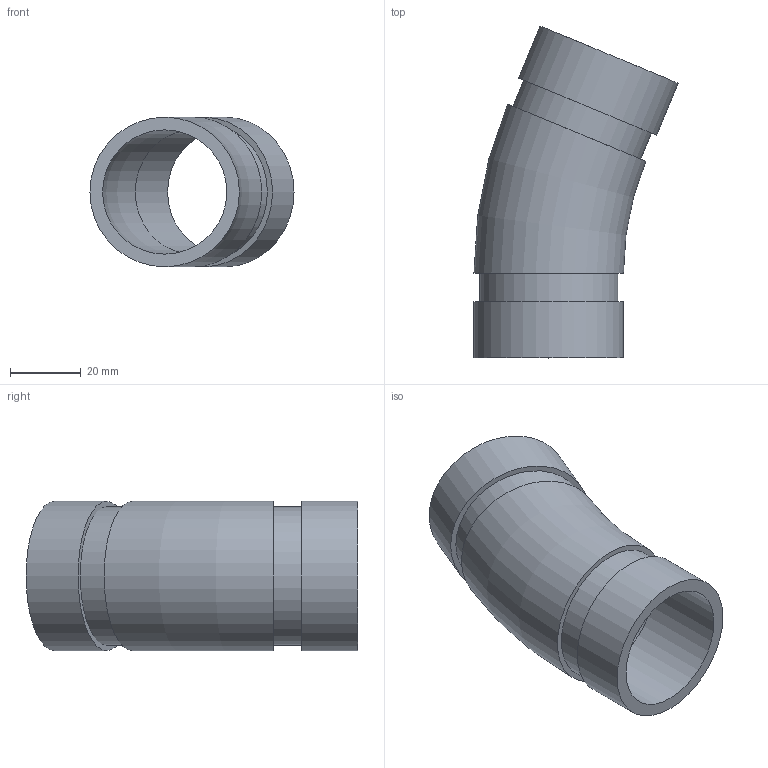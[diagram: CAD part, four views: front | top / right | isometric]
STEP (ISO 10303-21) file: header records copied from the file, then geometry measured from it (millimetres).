
FILE_DESCRIPTION(/* description */ ('VIC ELBOW 22 1/2 DEG No 12 (OGS)','CAx-IF Rec.Pracs.---Representation and Presentation of Product Manufacturing Information (PMI)---4.0---2014-10-13'),/* implementation_level */ '2;1');
FILE_NAME(/* name */ 'C:\Users\Vjadhav\Desktop\CAD for Inventor\1\12\STEP\Victaulic_IPS_Elbow 22.5 Deg_No 12 (OGS)\Victaulic_IPS_Elbow 22.5 Deg_No 12 (OGS)_1.25 (32).stp',/* time_stamp */ '2021-12-22T09:20:00+06:00',/* author */ ('CONSTRUCTION PIPING SERVICES'),/* organization */ ('Victaulic'),/* preprocessor_version */ 'ST-DEVELOPER v17.2',/* originating_system */ 'Autodesk Inventor 2019',/* authorisation */ '');
FILE_SCHEMA (('AP242_MANAGED_MODEL_BASED_3D_ENGINEERING_MIM_LF { 1 0 10303 442 1 1 4 }'));
Length unit declared in the file: inch
Products named in the file (1): 012-01.25
Bounding box: 57.57 x 93.58 x 42.16 mm (x, y, z)
Volume: 34896.5 mm3; surface area: 22950 mm2
Topology: 1 solids, 1 shells, 14 faces, 32 edges, 24 vertices
Faces by surface type: plane 6, cylinder 6, torus 2
Full cylindrical faces by diameter (mm): 35.052 x2, 38.989 x2, 42.164 x2
Entity records: 576 total; most frequent: DIRECTION 114, CARTESIAN_POINT 88, ORIENTED_EDGE 64, AXIS2_PLACEMENT_3D 54, EDGE_CURVE 32, CIRCLE 26, VERTEX_POINT 24, EDGE_LOOP 20
